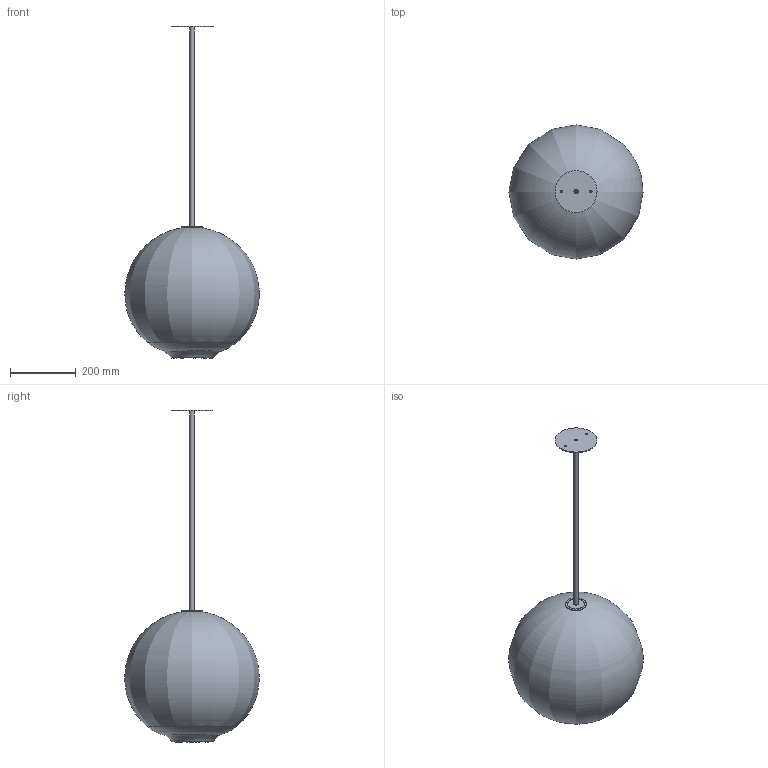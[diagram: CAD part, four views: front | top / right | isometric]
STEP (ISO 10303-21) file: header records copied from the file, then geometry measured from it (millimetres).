
FILE_DESCRIPTION(/* description */ (''),/* implementation_level */ '2;1');
FILE_NAME(/* name */ 'SkLO_Float_1.0_Pendant_16_LT254_3D',/* time_stamp */ '2024-10-23T16:01:16+02:00',/* author */ (''),/* organization */ (''),/* preprocessor_version */ 'ST-DEVELOPER v16.5',/* originating_system */ 'Rhino 7.34',/* authorisation */ '');
FILE_SCHEMA (('CONFIG_CONTROL_DESIGN'));
Length unit declared in the file: millimetre
Products named in the file (1): Document
Bounding box: 407.27 x 407.8 x 1008.09 mm (x, y, z)
Volume: 4240697.2 mm3; surface area: 1124102 mm2
Topology: 12 solids, 13 shells, 388 faces, 957 edges, 614 vertices
Faces by surface type: plane 205, cylinder 105, bspline 78
Full cylindrical faces by diameter (mm): 4 x2, 4.2 x2, 8 x1, 10.2 x2, 11.236 x1, 13 x2, 42 x1, 42.416 x1, 45 x1, 47.21 x1, 51.33 x2, 52 x1, 52.4 x1, 53 x1, 53.931 x1, 54 x1, 62 x1, 64 x2, 127 x1
Entity records: 62682 total; most frequent: CARTESIAN_POINT 56232, ORIENTED_EDGE 1899, EDGE_CURVE 950, B_SPLINE_CURVE_WITH_KNOTS 656, VERTEX_POINT 612, EDGE_LOOP 433, ADVANCED_FACE 388, FACE_OUTER_BOUND 388
